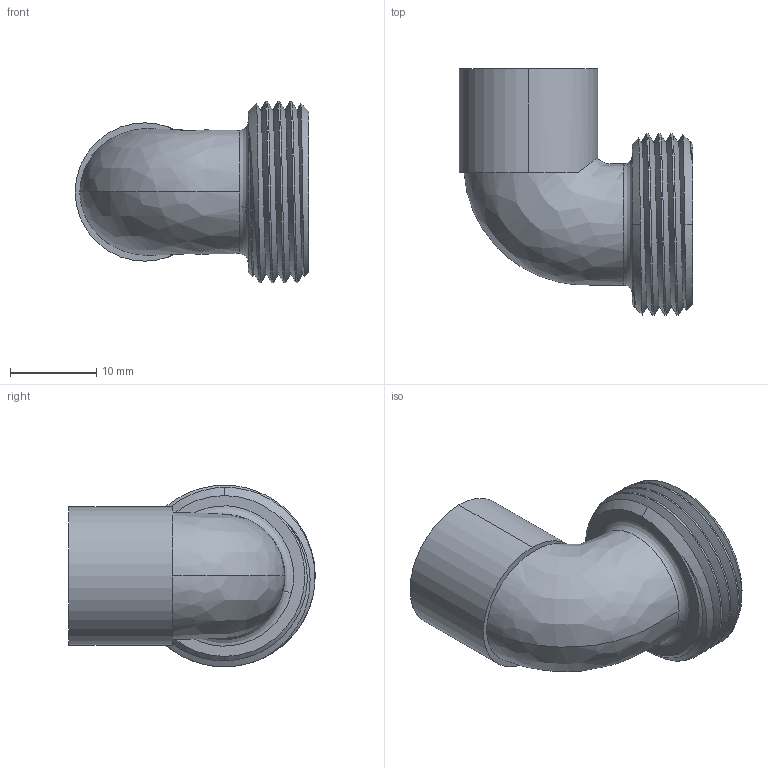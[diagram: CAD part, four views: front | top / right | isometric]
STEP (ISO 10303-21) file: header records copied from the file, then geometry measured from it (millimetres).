
FILE_DESCRIPTION (( 'STEP AP203' ), '1' );
FILE_NAME ('12X12.STEP', '2014-08-26T23:53:46', ( 'Administrators' ), ( 'JUJUMAO' ), 'SwSTEP 2.0', 'SolidWorks 2008', '' );
FILE_SCHEMA (( 'CONFIG_CONTROL_DESIGN' ));
Length unit declared in the file: millimetre
Products named in the file (1): 12X12
Bounding box: 27 x 28.5 x 21 mm (x, y, z)
Volume: 3698.6 mm3; surface area: 3579.9 mm2
Topology: 1 solids, 1 shells, 31 faces, 81 edges, 54 vertices
Faces by surface type: cylinder 12, bspline 8, cone 6, plane 5
Entity records: 3349 total; most frequent: CARTESIAN_POINT 2616, ORIENTED_EDGE 162, DIRECTION 103, EDGE_CURVE 81, VERTEX_POINT 54, AXIS2_PLACEMENT_3D 43, EDGE_LOOP 35, ADVANCED_FACE 31
